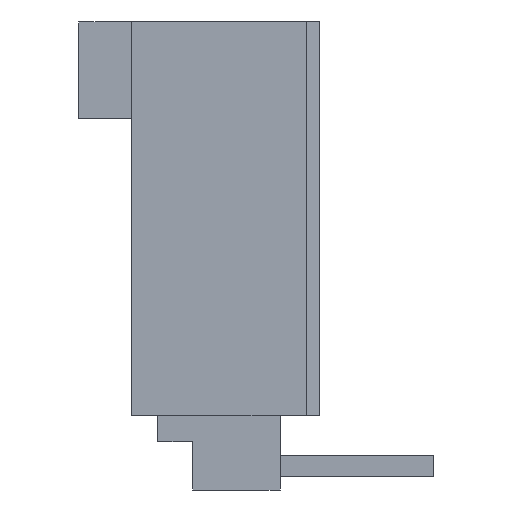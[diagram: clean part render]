
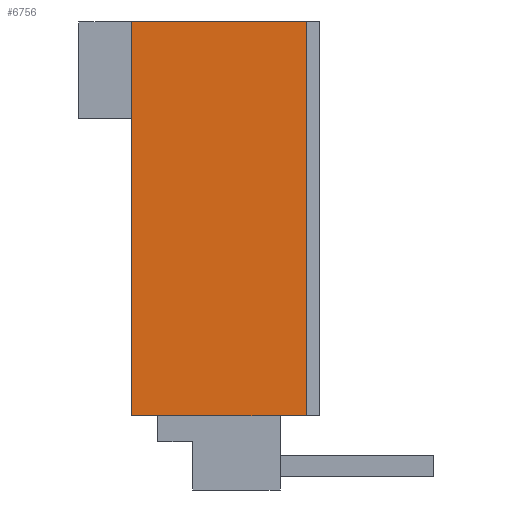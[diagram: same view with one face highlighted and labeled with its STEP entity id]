
A CAD part, left-side view. The second image highlights one B-rep face of the part: STEP entity #6756.
In plain terms, the highlighted planar face has unit normal (-1, 0, 0).
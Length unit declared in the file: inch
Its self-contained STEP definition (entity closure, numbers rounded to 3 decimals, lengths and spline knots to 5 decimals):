
#33=DIRECTION('',(0.,-1.,0.));
#34=VECTOR('',#33,0.2);
#35=CARTESIAN_POINT('',(-0.95,0.1,-0.225));
#36=LINE('',#35,#34);
#61=DIRECTION('',(0.,0.,1.));
#62=VECTOR('',#61,0.45);
#63=CARTESIAN_POINT('',(-0.95,-0.1,-0.225));
#64=LINE('',#63,#62);
#137=DIRECTION('',(0.,-1.,0.));
#138=VECTOR('',#137,0.2);
#139=CARTESIAN_POINT('',(-0.95,0.1,0.225));
#140=LINE('',#139,#138);
#905=DIRECTION('',(0.,0.,1.));
#906=VECTOR('',#905,0.45);
#907=CARTESIAN_POINT('',(-0.95,0.1,-0.225));
#908=LINE('',#907,#906);
#4357=CARTESIAN_POINT('',(-0.95,0.1,-0.225));
#4358=CARTESIAN_POINT('',(-0.95,-0.1,-0.225));
#4359=VERTEX_POINT('',#4357);
#4360=VERTEX_POINT('',#4358);
#4365=CARTESIAN_POINT('',(-0.95,0.1,0.225));
#4366=CARTESIAN_POINT('',(-0.95,-0.1,0.225));
#4367=VERTEX_POINT('',#4365);
#4368=VERTEX_POINT('',#4366);
#6745=CARTESIAN_POINT('',(-0.95,0.1,-0.225));
#6746=DIRECTION('',(-1.,0.,0.));
#6747=DIRECTION('',(0.,-1.,0.));
#6748=AXIS2_PLACEMENT_3D('',#6745,#6746,#6747);
#6749=PLANE('',#6748);
#6750=ORIENTED_EDGE('',*,*,#5752,.F.);
#6751=ORIENTED_EDGE('',*,*,#6331,.T.);
#6752=ORIENTED_EDGE('',*,*,#5903,.T.);
#6753=ORIENTED_EDGE('',*,*,#5790,.F.);
#6754=EDGE_LOOP('',(#6750,#6751,#6752,#6753));
#6755=FACE_OUTER_BOUND('',#6754,.F.);
#6756=ADVANCED_FACE('',(#6755),#6749,.T.);
#5752=EDGE_CURVE('',#4359,#4360,#36,.T.);
#5790=EDGE_CURVE('',#4360,#4368,#64,.T.);
#5903=EDGE_CURVE('',#4367,#4368,#140,.T.);
#6331=EDGE_CURVE('',#4359,#4367,#908,.T.);
